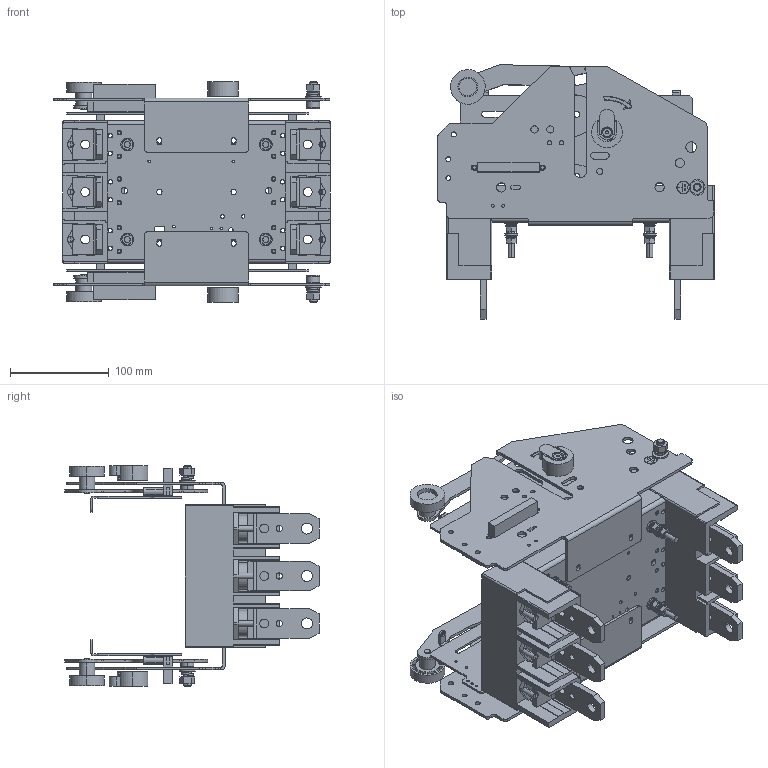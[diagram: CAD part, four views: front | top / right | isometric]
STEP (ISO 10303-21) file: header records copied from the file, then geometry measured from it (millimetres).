
FILE_DESCRIPTION (( 'STEP AP214' ), '1' );
FILE_NAME ('TGM1NE-DOB-400.STEP', '2026-07-06T06:42:26', ( '' ), ( '' ), 'SwSTEP 2.0', 'SolidWorks 2024', '' );
FILE_SCHEMA (( 'AUTOMOTIVE_DESIGN' ));
Length unit declared in the file: millimetre
Products named in the file (4): TGM1NE-DOB-400; TGM1NE-400.stp; крепления.stp; TGM1NE-DOB-400.stp
Assembly tree (6 placements, depth 3):
  TGM1NE-DOB-400
    TGM1NE-DOB-400.stp
      TGM1NE-400.stp
      крепления.stp  x4
Bounding box: 279.1 x 257.08 x 224 mm (x, y, z)
Volume: 1495700.3 mm3; surface area: 656615.9 mm2
Topology: 67 solids, 85 shells, 2852 faces, 7525 edges, 4964 vertices
Faces by surface type: plane 1490, cylinder 1096, bspline 134, torus 64, cone 48, sphere 20
Entity records: 94769 total; most frequent: CARTESIAN_POINT 22241, DIRECTION 14971, ORIENTED_EDGE 14810, EDGE_CURVE 7405, AXIS2_PLACEMENT_3D 5186, VERTEX_POINT 4894, LINE 4599, VECTOR 4599
